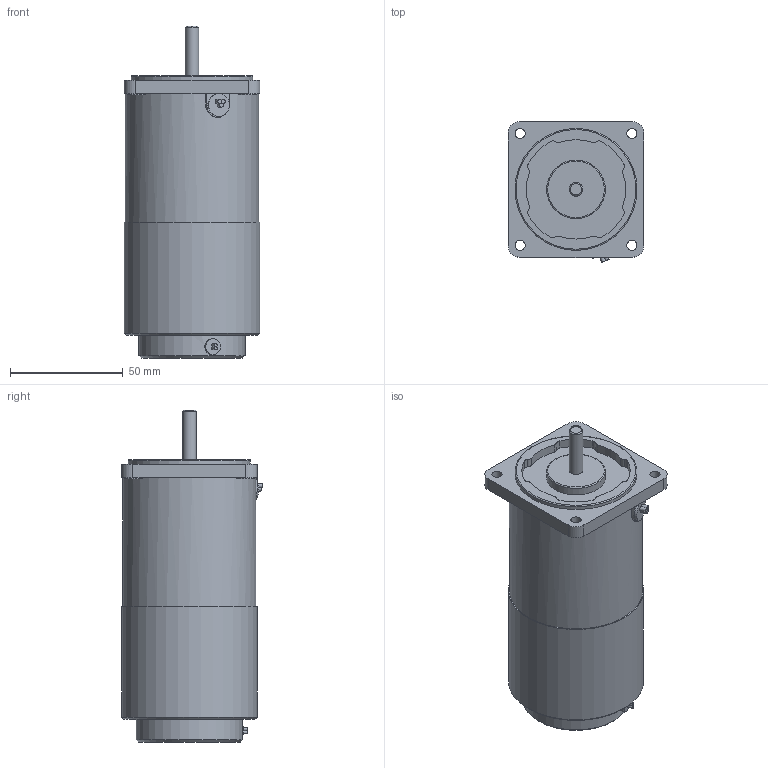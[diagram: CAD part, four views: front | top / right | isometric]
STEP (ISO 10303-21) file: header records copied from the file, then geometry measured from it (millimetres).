
FILE_DESCRIPTION((''),'2;1');
FILE_NAME('E:\2공장-도면\3D\표준형 3D(민규)\step file\D\K6RS6Nㅁ-D.stp','2014-11-17T11:02:42',('AHN'),(''),'Autodesk Inventor 2012','Autodesk Inventor 2012','');
FILE_SCHEMA(('CONFIG_CONTROL_DESIGN'));
Length unit declared in the file: millimetre
Products named in the file (1): K6RS6Nㅁ-D
Bounding box: 60 x 62.29 x 147 mm (x, y, z)
Volume: 336406.3 mm3; surface area: 32030.9 mm2
Topology: 1 solids, 1 shells, 86 faces, 195 edges, 121 vertices
Faces by surface type: cylinder 53, plane 28, cone 3, torus 2
Full cylindrical faces by diameter (mm): 1.4 x2, 4.5 x4, 6 x1, 7 x1, 8 x4, 10 x1, 26 x1, 47 x1, 54 x1, 59 x1, 60 x1
Entity records: 2390 total; most frequent: DIRECTION 452, CARTESIAN_POINT 424, ORIENTED_EDGE 342, AXIS2_PLACEMENT_3D 196, EDGE_CURVE 171, EDGE_LOOP 128, VERTEX_POINT 116, CIRCLE 109
